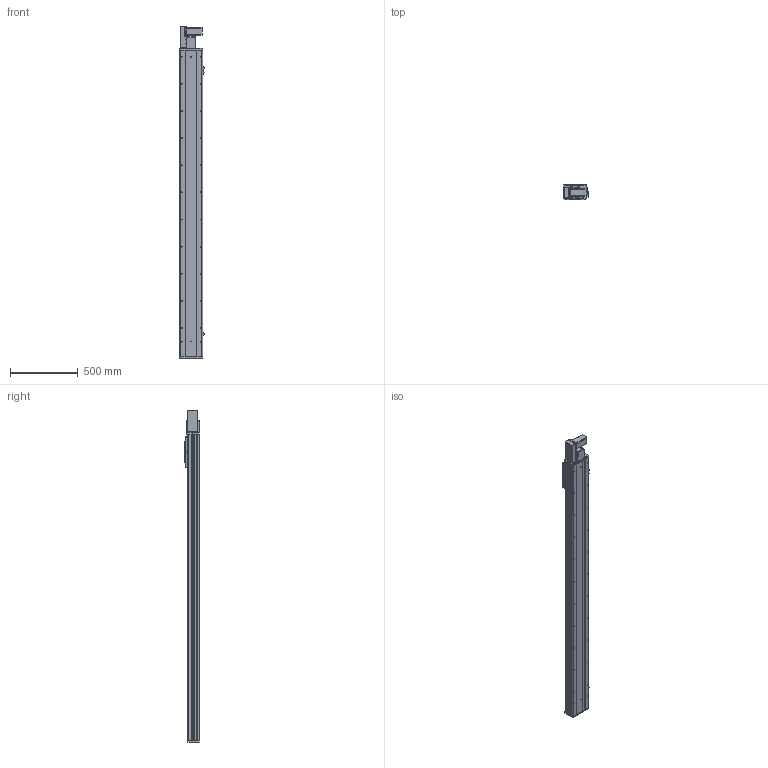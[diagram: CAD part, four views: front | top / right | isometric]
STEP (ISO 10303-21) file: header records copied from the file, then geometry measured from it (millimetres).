
FILE_DESCRIPTION (( 'STEP AP203' ), '1' );
FILE_NAME ('Y170CB-D105-S1950-BL-P400W.STEP', '2020-02-20T01:36:28', ( '微软用户' ), ( '微软中国' ), 'SwSTEP 2.0', 'SolidWorks 2017', '' );
FILE_SCHEMA (( 'CONFIG_CONTROL_DESIGN' ));
Length unit declared in the file: millimetre
Products named in the file (18): 70B喘謫眊----; 70CB-耜裔啣-; Y1埴倛裔; 70C--詩湍揤踡え-; B-源倛裔啣; Y170CB-D105-S1950-BL-P400W; 70CB--耜裔; 17B-耜蚾蟀諉啣----; 70C-雄赽釱-奻-; 0B-萇儂楊擘啣; 0C--雄赽釱俋欶-170; san松下电机400不带刹车----; 70CB-詩湍--; Y70俋欶BR----; Y100-135俋离換覜ん--; 70CB-掛极-; Y170CB-陔俋离換覜結え---; --70CB --喘謫眊楊擘啣-
Assembly tree (21 placements, depth 2):
  Y170CB-D105-S1950-BL-P400W
    B-源倛裔啣
    17B-耜蚾蟀諉啣----
    0B-萇儂楊擘啣
    san松下电机400不带刹车----
    Y70俋欶BR----
    70CB-掛极-
    --70CB --喘謫眊楊擘啣-
    70CB-耜裔啣-  x2
    70C--詩湍揤踡え-  x2
    70CB--耜裔
    70C-雄赽釱-奻-
    0C--雄赽釱俋欶-170
    70CB-詩湍--
    Y100-135俋离換覜ん--  x3
    Y170CB-陔俋离換覜結え---
    70B喘謫眊----
    Y1埴倛裔
Bounding box: 183.5 x 107 x 2447 mm (x, y, z)
Volume: 10277783.8 mm3; surface area: 3703230 mm2
Topology: 21 solids, 21 shells, 1047 faces, 2813 edges, 1866 vertices
Faces by surface type: cylinder 559, plane 464, cone 24
Entity records: 33488 total; most frequent: CARTESIAN_POINT 6156, DIRECTION 5446, ORIENTED_EDGE 5108, EDGE_CURVE 2554, AXIS2_PLACEMENT_3D 2004, VERTEX_POINT 1696, LINE 1438, VECTOR 1438
